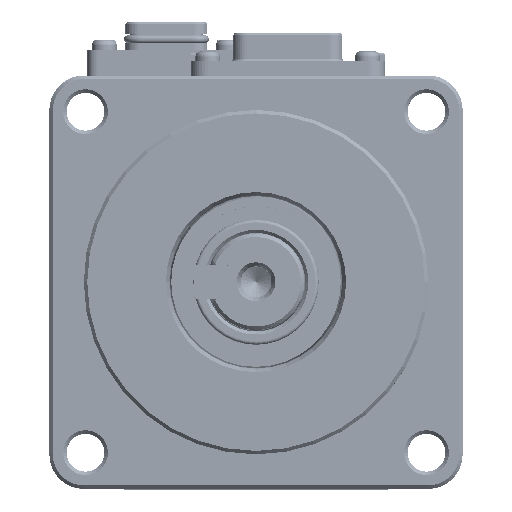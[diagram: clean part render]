
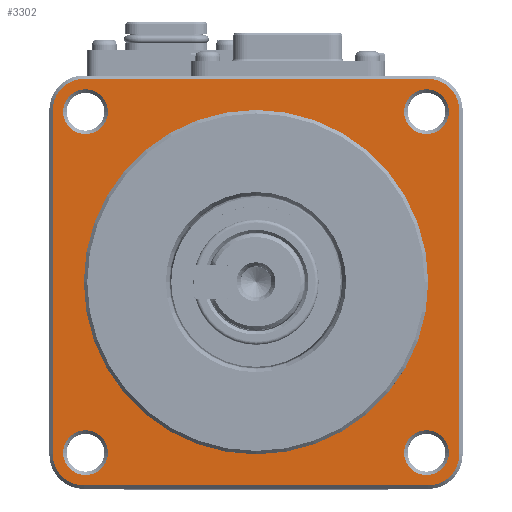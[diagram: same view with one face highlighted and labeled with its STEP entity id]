
A CAD part, top view. The second image highlights one B-rep face of the part: STEP entity #3302.
In plain terms, the highlighted planar face has unit normal (0, 0, 1).
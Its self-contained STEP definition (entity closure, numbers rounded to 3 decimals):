
#469=CARTESIAN_POINT('',(25.,-25.,13.7));
#470=DIRECTION('',(0.,0.,-1.));
#471=DIRECTION('',(1.,0.,0.));
#472=AXIS2_PLACEMENT_3D('',#469,#470,#471);
#474=DIRECTION('',(-1.,0.,0.));
#475=VECTOR('',#474,50.);
#476=CARTESIAN_POINT('',(25.,-29.5,13.7));
#477=LINE('',#476,#475);
#478=CARTESIAN_POINT('',(-25.,-25.,13.7));
#479=DIRECTION('',(0.,0.,-1.));
#480=DIRECTION('',(0.,-1.,0.));
#481=AXIS2_PLACEMENT_3D('',#478,#479,#480);
#483=DIRECTION('',(0.,1.,0.));
#484=VECTOR('',#483,50.);
#485=CARTESIAN_POINT('',(-29.5,-25.,13.7));
#486=LINE('',#485,#484);
#487=CARTESIAN_POINT('',(-25.,25.,13.7));
#488=DIRECTION('',(0.,0.,-1.));
#489=DIRECTION('',(-1.,0.,0.));
#490=AXIS2_PLACEMENT_3D('',#487,#488,#489);
#492=DIRECTION('',(1.,0.,0.));
#493=VECTOR('',#492,50.);
#494=CARTESIAN_POINT('',(-25.,29.5,13.7));
#495=LINE('',#494,#493);
#496=CARTESIAN_POINT('',(25.,25.,13.7));
#497=DIRECTION('',(0.,0.,-1.));
#498=DIRECTION('',(0.,1.,0.));
#499=AXIS2_PLACEMENT_3D('',#496,#497,#498);
#501=DIRECTION('',(0.,-1.,0.));
#502=VECTOR('',#501,50.);
#503=CARTESIAN_POINT('',(29.5,25.,13.7));
#504=LINE('',#503,#502);
#505=CARTESIAN_POINT('',(-24.749,24.749,13.7));
#506=DIRECTION('',(0.,0.,-1.));
#507=DIRECTION('',(1.,0.,0.));
#508=AXIS2_PLACEMENT_3D('',#505,#506,#507);
#510=CARTESIAN_POINT('',(-24.749,24.749,13.7));
#511=DIRECTION('',(0.,0.,-1.));
#512=DIRECTION('',(-1.,0.,0.));
#513=AXIS2_PLACEMENT_3D('',#510,#511,#512);
#515=CARTESIAN_POINT('',(24.749,24.749,13.7));
#516=DIRECTION('',(0.,0.,-1.));
#517=DIRECTION('',(0.,1.,0.));
#518=AXIS2_PLACEMENT_3D('',#515,#516,#517);
#520=CARTESIAN_POINT('',(24.749,24.749,13.7));
#521=DIRECTION('',(0.,0.,-1.));
#522=DIRECTION('',(0.,-1.,0.));
#523=AXIS2_PLACEMENT_3D('',#520,#521,#522);
#525=CARTESIAN_POINT('',(-24.749,-24.749,13.7));
#526=DIRECTION('',(0.,0.,-1.));
#527=DIRECTION('',(0.,1.,0.));
#528=AXIS2_PLACEMENT_3D('',#525,#526,#527);
#530=CARTESIAN_POINT('',(-24.749,-24.749,13.7));
#531=DIRECTION('',(0.,0.,-1.));
#532=DIRECTION('',(0.,-1.,0.));
#533=AXIS2_PLACEMENT_3D('',#530,#531,#532);
#535=CARTESIAN_POINT('',(24.749,-24.749,13.7));
#536=DIRECTION('',(0.,0.,-1.));
#537=DIRECTION('',(1.,0.,0.));
#538=AXIS2_PLACEMENT_3D('',#535,#536,#537);
#540=CARTESIAN_POINT('',(24.749,-24.749,13.7));
#541=DIRECTION('',(0.,0.,-1.));
#542=DIRECTION('',(-1.,0.,0.));
#543=AXIS2_PLACEMENT_3D('',#540,#541,#542);
#554=CARTESIAN_POINT('',(0.,0.,13.7));
#555=DIRECTION('',(0.,0.,-1.));
#556=DIRECTION('',(0.,1.,0.));
#557=AXIS2_PLACEMENT_3D('',#554,#555,#556);
#596=CARTESIAN_POINT('',(0.,0.,13.7));
#597=DIRECTION('',(0.,0.,1.));
#598=DIRECTION('',(0.,1.,0.));
#599=AXIS2_PLACEMENT_3D('',#596,#597,#598);
#2212=CARTESIAN_POINT('',(0.,25.,13.7));
#2213=CARTESIAN_POINT('',(0.,-25.,13.7));
#2214=VERTEX_POINT('',#2212);
#2215=VERTEX_POINT('',#2213);
#2658=CARTESIAN_POINT('',(29.5,-25.,13.7));
#2659=CARTESIAN_POINT('',(25.,-29.5,13.7));
#2660=VERTEX_POINT('',#2658);
#2661=VERTEX_POINT('',#2659);
#2664=CARTESIAN_POINT('',(-25.,-29.5,
13.7));
#2665=VERTEX_POINT('',#2664);
#2668=CARTESIAN_POINT('',(-29.5,-25.,13.7));
#2669=VERTEX_POINT('',#2668);
#2672=CARTESIAN_POINT('',(-29.5,25.,13.7));
#2673=VERTEX_POINT('',#2672);
#2676=CARTESIAN_POINT('',(-25.,29.5,13.7));
#2677=VERTEX_POINT('',#2676);
#2680=CARTESIAN_POINT('',(25.,29.5,13.7));
#2681=VERTEX_POINT('',#2680);
#2684=CARTESIAN_POINT('',(29.5,25.,13.7));
#2685=VERTEX_POINT('',#2684);
#2704=CARTESIAN_POINT('',(-21.499,24.749,13.7));
#2705=CARTESIAN_POINT('',(-27.999,24.749,13.7));
#2706=VERTEX_POINT('',#2704);
#2707=VERTEX_POINT('',#2705);
#2712=CARTESIAN_POINT('',(24.749,27.999,13.7));
#2713=CARTESIAN_POINT('',(24.749,21.499,13.7));
#2714=VERTEX_POINT('',#2712);
#2715=VERTEX_POINT('',#2713);
#2720=CARTESIAN_POINT('',(-24.749,-21.499,13.7));
#2721=CARTESIAN_POINT('',(-24.749,-27.999,13.7));
#2722=VERTEX_POINT('',#2720);
#2723=VERTEX_POINT('',#2721);
#2728=CARTESIAN_POINT('',(27.999,-24.749,13.7));
#2729=CARTESIAN_POINT('',(21.499,-24.749,13.7));
#2730=VERTEX_POINT('',#2728);
#2731=VERTEX_POINT('',#2729);
#3252=CARTESIAN_POINT('',(0.,0.,13.7));
#3253=DIRECTION('',(0.,0.,1.));
#3254=DIRECTION('',(0.,1.,0.));
#3255=AXIS2_PLACEMENT_3D('',#3252,#3253,#3254);
#3256=PLANE('',#3255);
#3258=ORIENTED_EDGE('',*,*,#3257,.T.);
#3260=ORIENTED_EDGE('',*,*,#3259,.T.);
#3262=ORIENTED_EDGE('',*,*,#3261,.T.);
#3264=ORIENTED_EDGE('',*,*,#3263,.T.);
#3266=ORIENTED_EDGE('',*,*,#3265,.T.);
#3267=ORIENTED_EDGE('',*,*,#3069,.T.);
#3268=ORIENTED_EDGE('',*,*,#3085,.T.);
#3270=ORIENTED_EDGE('',*,*,#3269,.T.);
#3271=EDGE_LOOP('',(#3258,#3260,#3262,#3264,#3266,#3267,#3268,#3270));
#3272=FACE_OUTER_BOUND('',#3271,.F.);
#3274=ORIENTED_EDGE('',*,*,#3273,.F.);
#3276=ORIENTED_EDGE('',*,*,#3275,.T.);
#3277=EDGE_LOOP('',(#3274,#3276));
#3278=FACE_BOUND('',#3277,.F.);
#3280=ORIENTED_EDGE('',*,*,#3279,.F.);
#3281=ORIENTED_EDGE('',*,*,#3242,.F.);
#3282=EDGE_LOOP('',(#3280,#3281));
#3283=FACE_BOUND('',#3282,.F.);
#3285=ORIENTED_EDGE('',*,*,#3284,.F.);
#3287=ORIENTED_EDGE('',*,*,#3286,.F.);
#3288=EDGE_LOOP('',(#3285,#3287));
#3289=FACE_BOUND('',#3288,.F.);
#3291=ORIENTED_EDGE('',*,*,#3290,.F.);
#3293=ORIENTED_EDGE('',*,*,#3292,.F.);
#3294=EDGE_LOOP('',(#3291,#3293));
#3295=FACE_BOUND('',#3294,.F.);
#3297=ORIENTED_EDGE('',*,*,#3296,.F.);
#3299=ORIENTED_EDGE('',*,*,#3298,.F.);
#3300=EDGE_LOOP('',(#3297,#3299));
#3301=FACE_BOUND('',#3300,.F.);
#3302=ADVANCED_FACE('',(#3272,#3278,#3283,#3289,#3295,#3301),#3256,.T.);
#473=CIRCLE('',#472,4.5);
#482=CIRCLE('',#481,4.5);
#491=CIRCLE('',#490,4.5);
#500=CIRCLE('',#499,4.5);
#509=CIRCLE('',#508,3.25);
#514=CIRCLE('',#513,3.25);
#519=CIRCLE('',#518,3.25);
#524=CIRCLE('',#523,3.25);
#529=CIRCLE('',#528,3.25);
#534=CIRCLE('',#533,3.25);
#539=CIRCLE('',#538,3.25);
#544=CIRCLE('',#543,3.25);
#558=CIRCLE('',#557,25.);
#600=CIRCLE('',#599,25.);
#3069=EDGE_CURVE('',#2677,#2681,#495,.T.);
#3085=EDGE_CURVE('',#2681,#2685,#500,.T.);
#3242=EDGE_CURVE('',#2707,#2706,#514,.T.);
#3257=EDGE_CURVE('',#2660,#2661,#473,.T.);
#3259=EDGE_CURVE('',#2661,#2665,#477,.T.);
#3261=EDGE_CURVE('',#2665,#2669,#482,.T.);
#3263=EDGE_CURVE('',#2669,#2673,#486,.T.);
#3265=EDGE_CURVE('',#2673,#2677,#491,.T.);
#3269=EDGE_CURVE('',#2685,#2660,#504,.T.);
#3273=EDGE_CURVE('',#2214,#2215,#558,.T.);
#3275=EDGE_CURVE('',#2214,#2215,#600,.T.);
#3279=EDGE_CURVE('',#2706,#2707,#509,.T.);
#3284=EDGE_CURVE('',#2714,#2715,#519,.T.);
#3286=EDGE_CURVE('',#2715,#2714,#524,.T.);
#3290=EDGE_CURVE('',#2722,#2723,#529,.T.);
#3292=EDGE_CURVE('',#2723,#2722,#534,.T.);
#3296=EDGE_CURVE('',#2730,#2731,#539,.T.);
#3298=EDGE_CURVE('',#2731,#2730,#544,.T.);
